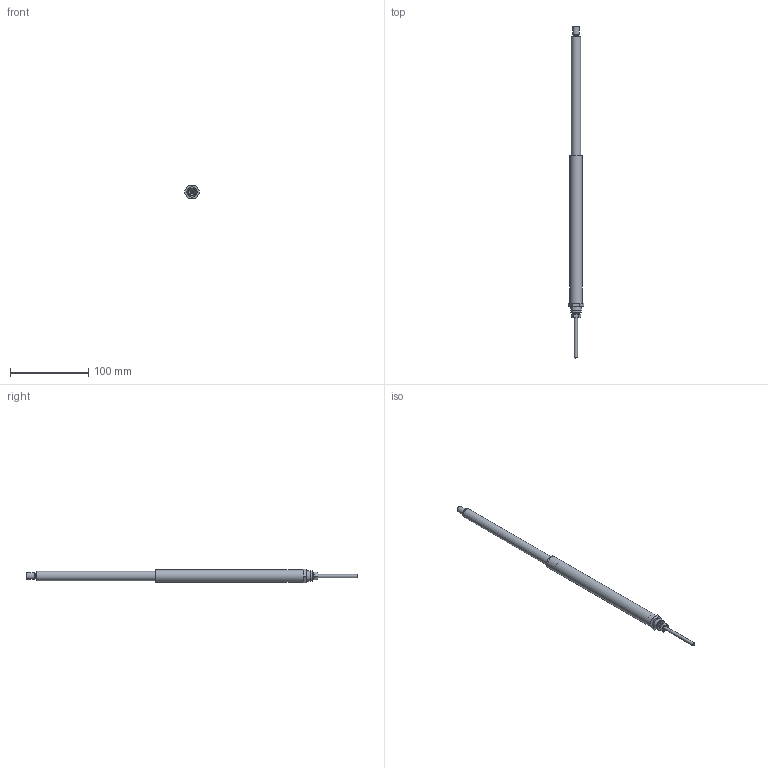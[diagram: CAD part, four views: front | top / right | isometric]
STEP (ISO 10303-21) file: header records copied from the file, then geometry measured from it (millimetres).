
FILE_DESCRIPTION(/* description */ ('Unknown'),/* implementation_level */ '2;1');
FILE_NAME(/* name */ '107.00131 Zylinder CG 1415_ausgefahren',/* time_stamp */ '2018-06-15T14:56:28+02:00',/* author */ ('Unknown'),/* organization */ ('Unknown'),/* preprocessor_version */ 'ST-DEVELOPER v16.7',/* originating_system */ 'DEX',/* authorisation */ $);
FILE_SCHEMA (('AUTOMOTIVE_DESIGN {1 0 10303 214 3 1 1}'));
Length unit declared in the file: millimetre
Products named in the file (9): 107.00131; 121.00001; 142.00021; 125.00021; 115.00007_oa_0; 125.00031; 120.00021; 122.00001; 113.00002_70mm
Assembly tree (8 placements, depth 2):
  107.00131
    121.00001
    142.00021
    125.00021
    115.00007_oa_0
    125.00031
    120.00021
    122.00001
    113.00002_70mm
Bounding box: 19.63 x 423 x 17 mm (x, y, z)
Volume: 33244.8 mm3; surface area: 30167.4 mm2
Topology: 7 solids, 7 shells, 95 faces, 187 edges, 118 vertices
Faces by surface type: plane 38, cylinder 28, cone 23, torus 5, sphere 1
Full cylindrical faces by diameter (mm): 2.2 x1, 3.5 x1, 4 x1, 4.1 x1, 4.2 x1, 6 x1, 6.917 x2, 7.763 x2, 8 x4, 8.1 x3, 9 x1, 12 x2, 12.5 x1, 13 x2, 13.9 x2, 14 x2, 16 x1
Entity records: 2880 total; most frequent: DIRECTION 402, CARTESIAN_POINT 377, ORIENTED_EDGE 254, AXIS2_PLACEMENT_3D 183, FACE_BOUND 169, EDGE_LOOP 168, EDGE_CURVE 127, VERTEX_POINT 110
